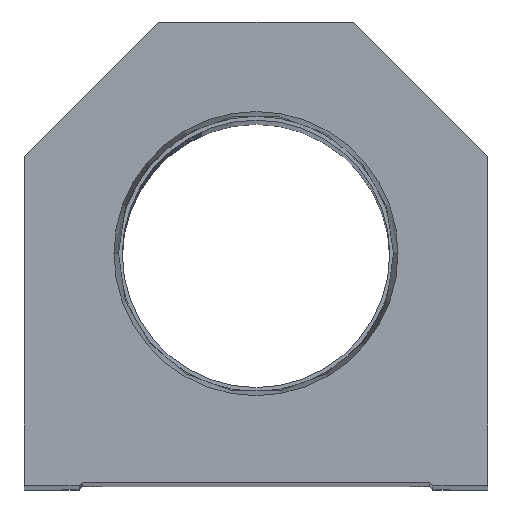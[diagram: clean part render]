
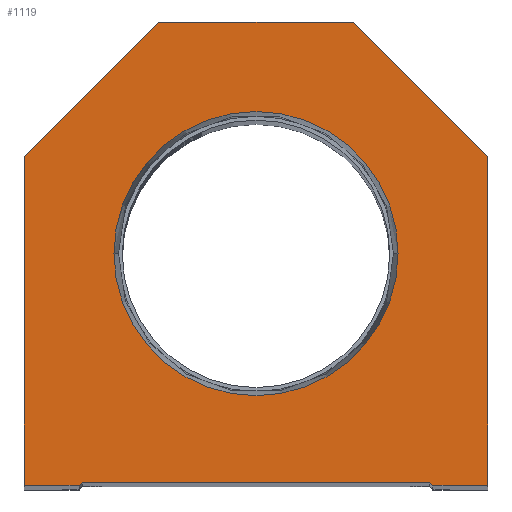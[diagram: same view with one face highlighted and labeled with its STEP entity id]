
A CAD part, top view. The second image highlights one B-rep face of the part: STEP entity #1119.
In plain terms, the highlighted planar face has unit normal (0, 0, 1).
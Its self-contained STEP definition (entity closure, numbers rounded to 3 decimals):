
#42 = DIRECTION ( 'NONE',  ( 1., 0., 0. ) ) ;
#187 = VERTEX_POINT ( 'NONE', #10586 ) ;
#287 = LINE ( 'NONE', #3491, #19001 ) ;
#444 = VERTEX_POINT ( 'NONE', #6204 ) ;
#565 = VERTEX_POINT ( 'NONE', #17405 ) ;
#605 = ORIENTED_EDGE ( 'NONE', *, *, #9530, .T. ) ;
#826 = EDGE_CURVE ( 'NONE', #10024, #6685, #16383, .T. ) ;
#861 = CARTESIAN_POINT ( 'NONE',  ( -28.6, 0., 0. ) ) ;
#901 = VERTEX_POINT ( 'NONE', #13923 ) ;
#947 = EDGE_LOOP ( 'NONE', ( #13671, #12263, #12746, #5333, #16988, #18450, #605, #3164, #17111, #8553 ) ) ;
#964 = CIRCLE ( 'NONE', #11773, 23.374 ) ;
#1002 = AXIS2_PLACEMENT_3D ( 'NONE', #7890, #3496, #5082 ) ;
#1078 = CARTESIAN_POINT ( 'NONE',  ( 16., 76.2, 0. ) ) ;
#1119 = ADVANCED_FACE ( 'NONE', ( #9560, #9763 ), #2091, .T. ) ;
#1227 = EDGE_CURVE ( 'NONE', #11662, #5984, #5359, .T. ) ;
#1528 = EDGE_CURVE ( 'NONE', #6685, #16350, #4728, .T. ) ;
#1987 = LINE ( 'NONE', #6190, #2509 ) ;
#2091 = PLANE ( 'NONE',  #1002 ) ;
#2385 = VECTOR ( 'NONE', #16456, 1000. ) ;
#2481 = EDGE_CURVE ( 'NONE', #565, #17943, #964, .T. ) ;
#2509 = VECTOR ( 'NONE', #4800, 1000. ) ;
#2632 = CARTESIAN_POINT ( 'NONE',  ( 28.6, 0.5, 0. ) ) ;
#3164 = ORIENTED_EDGE ( 'NONE', *, *, #6292, .T. ) ;
#3402 = CARTESIAN_POINT ( 'NONE',  ( -38.1, 54.1, 0. ) ) ;
#3491 = CARTESIAN_POINT ( 'NONE',  ( -14.55, 14.55, 0. ) ) ;
#3496 = DIRECTION ( 'NONE',  ( 0., 0., 1. ) ) ;
#4004 = DIRECTION ( 'NONE',  ( -1., 0., 0. ) ) ;
#4728 = LINE ( 'NONE', #16734, #14525 ) ;
#4800 = DIRECTION ( 'NONE',  ( 0., 1., 0. ) ) ;
#4893 = DIRECTION ( 'NONE',  ( 0., 0., 1. ) ) ;
#5082 = DIRECTION ( 'NONE',  ( 1., 0., 0. ) ) ;
#5333 = ORIENTED_EDGE ( 'NONE', *, *, #1528, .T. ) ;
#5359 = LINE ( 'NONE', #8450, #11572 ) ;
#5457 = VECTOR ( 'NONE', #13091, 1000. ) ;
#5984 = VERTEX_POINT ( 'NONE', #11744 ) ;
#6190 = CARTESIAN_POINT ( 'NONE',  ( 38.1, 0., 0. ) ) ;
#6204 = CARTESIAN_POINT ( 'NONE',  ( -29.1, 0., 0. ) ) ;
#6231 = CARTESIAN_POINT ( 'NONE',  ( 23.374, 38.1, 0. ) ) ;
#6292 = EDGE_CURVE ( 'NONE', #901, #187, #8763, .T. ) ;
#6579 = CARTESIAN_POINT ( 'NONE',  ( 29.1, 0., 0. ) ) ;
#6685 = VERTEX_POINT ( 'NONE', #2632 ) ;
#6863 = EDGE_LOOP ( 'NONE', ( #7189, #18092 ) ) ;
#7006 = VERTEX_POINT ( 'NONE', #10988 ) ;
#7189 = ORIENTED_EDGE ( 'NONE', *, *, #12098, .F. ) ;
#7237 = CARTESIAN_POINT ( 'NONE',  ( -28.6, 0.5, 0. ) ) ;
#7624 = LINE ( 'NONE', #15151, #2385 ) ;
#7785 = VECTOR ( 'NONE', #15224, 1000. ) ;
#7844 = LINE ( 'NONE', #15152, #18409 ) ;
#7890 = CARTESIAN_POINT ( 'NONE',  ( 0., 0., 0. ) ) ;
#8250 = LINE ( 'NONE', #861, #5457 ) ;
#8450 = CARTESIAN_POINT ( 'NONE',  ( -38.1, 0., 0. ) ) ;
#8553 = ORIENTED_EDGE ( 'NONE', *, *, #1227, .T. ) ;
#8763 = LINE ( 'NONE', #1078, #14373 ) ;
#9084 = LINE ( 'NONE', #15127, #7785 ) ;
#9530 = EDGE_CURVE ( 'NONE', #7006, #901, #9084, .T. ) ;
#9560 = FACE_BOUND ( 'NONE', #6863, .T. ) ;
#9763 = FACE_OUTER_BOUND ( 'NONE', #947, .T. ) ;
#10024 = VERTEX_POINT ( 'NONE', #7237 ) ;
#10098 = EDGE_CURVE ( 'NONE', #187, #11662, #7624, .T. ) ;
#10168 = DIRECTION ( 'NONE',  ( 1., 0., 0. ) ) ;
#10256 = VERTEX_POINT ( 'NONE', #18926 ) ;
#10586 = CARTESIAN_POINT ( 'NONE',  ( -16., 76.2, 0. ) ) ;
#10988 = CARTESIAN_POINT ( 'NONE',  ( 38.1, 54.1, 0. ) ) ;
#11572 = VECTOR ( 'NONE', #14491, 1000. ) ;
#11662 = VERTEX_POINT ( 'NONE', #3402 ) ;
#11684 = CIRCLE ( 'NONE', #14214, 23.374 ) ;
#11744 = CARTESIAN_POINT ( 'NONE',  ( -38.1, 0., 0. ) ) ;
#11773 = AXIS2_PLACEMENT_3D ( 'NONE', #13031, #19129, #10168 ) ;
#12081 = EDGE_CURVE ( 'NONE', #444, #10024, #287, .T. ) ;
#12098 = EDGE_CURVE ( 'NONE', #17943, #565, #11684, .T. ) ;
#12263 = ORIENTED_EDGE ( 'NONE', *, *, #12081, .T. ) ;
#12746 = ORIENTED_EDGE ( 'NONE', *, *, #826, .T. ) ;
#13031 = CARTESIAN_POINT ( 'NONE',  ( 0., 38.1, 0. ) ) ;
#13033 = EDGE_CURVE ( 'NONE', #10256, #7006, #1987, .T. ) ;
#13091 = DIRECTION ( 'NONE',  ( 1., 0., 0. ) ) ;
#13193 = DIRECTION ( 'NONE',  ( 1., 0., 0. ) ) ;
#13671 = ORIENTED_EDGE ( 'NONE', *, *, #17433, .T. ) ;
#13923 = CARTESIAN_POINT ( 'NONE',  ( 16., 76.2, 0. ) ) ;
#14214 = AXIS2_PLACEMENT_3D ( 'NONE', #18699, #4893, #15310 ) ;
#14364 = EDGE_CURVE ( 'NONE', #16350, #10256, #7844, .T. ) ;
#14373 = VECTOR ( 'NONE', #4004, 1000. ) ;
#14491 = DIRECTION ( 'NONE',  ( 0., -1., 0. ) ) ;
#14525 = VECTOR ( 'NONE', #18137, 1000. ) ;
#15127 = CARTESIAN_POINT ( 'NONE',  ( 38.1, 54.1, 0. ) ) ;
#15151 = CARTESIAN_POINT ( 'NONE',  ( -38.1, 54.1, 0. ) ) ;
#15152 = CARTESIAN_POINT ( 'NONE',  ( 28.6, 0., 0. ) ) ;
#15224 = DIRECTION ( 'NONE',  ( -0.707, 0.707, 0. ) ) ;
#15310 = DIRECTION ( 'NONE',  ( 1., 0., 0. ) ) ;
#15500 = DIRECTION ( 'NONE',  ( 0.707, 0.707, 0. ) ) ;
#16249 = VECTOR ( 'NONE', #13193, 1000. ) ;
#16350 = VERTEX_POINT ( 'NONE', #6579 ) ;
#16383 = LINE ( 'NONE', #19364, #16249 ) ;
#16456 = DIRECTION ( 'NONE',  ( -0.707, -0.707, 0. ) ) ;
#16734 = CARTESIAN_POINT ( 'NONE',  ( 14.55, 14.55, 0. ) ) ;
#16988 = ORIENTED_EDGE ( 'NONE', *, *, #14364, .T. ) ;
#17111 = ORIENTED_EDGE ( 'NONE', *, *, #10098, .T. ) ;
#17405 = CARTESIAN_POINT ( 'NONE',  ( -23.374, 38.1, 0. ) ) ;
#17433 = EDGE_CURVE ( 'NONE', #5984, #444, #8250, .T. ) ;
#17943 = VERTEX_POINT ( 'NONE', #6231 ) ;
#18092 = ORIENTED_EDGE ( 'NONE', *, *, #2481, .F. ) ;
#18137 = DIRECTION ( 'NONE',  ( 0.707, -0.707, 0. ) ) ;
#18409 = VECTOR ( 'NONE', #42, 1000. ) ;
#18450 = ORIENTED_EDGE ( 'NONE', *, *, #13033, .T. ) ;
#18699 = CARTESIAN_POINT ( 'NONE',  ( 0., 38.1, 0. ) ) ;
#18926 = CARTESIAN_POINT ( 'NONE',  ( 38.1, 0., 0. ) ) ;
#19001 = VECTOR ( 'NONE', #15500, 1000. ) ;
#19129 = DIRECTION ( 'NONE',  ( 0., 0., 1. ) ) ;
#19364 = CARTESIAN_POINT ( 'NONE',  ( -28.6, 0.5, 0. ) ) ;
